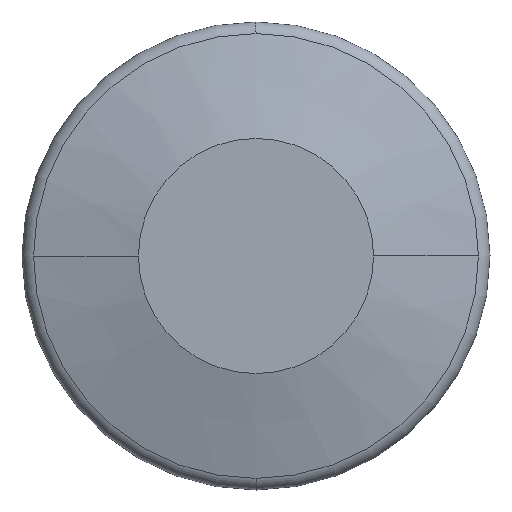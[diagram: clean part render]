
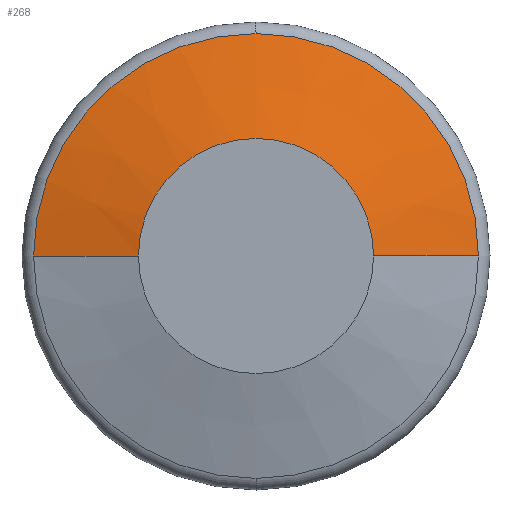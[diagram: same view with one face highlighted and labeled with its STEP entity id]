
A CAD part, left-side view. The second image highlights one B-rep face of the part: STEP entity #268.
In plain terms, the highlighted conical face has half-angle 75 degrees and reference radius 11.268 mm.
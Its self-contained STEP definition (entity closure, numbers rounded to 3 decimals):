
#218=CARTESIAN_POINT('',(1.,0.,0.0));
#219=DIRECTION('',(1.0,0.,0.0));
#220=DIRECTION('',(0.0,1.0,0.0));
#221=AXIS2_PLACEMENT_3D('',#218,#219,#220);
#222=CONICAL_SURFACE('',#221,11.268,75.);
#223=CARTESIAN_POINT('',(0.,7.536,0.0));
#224=VERTEX_POINT('',#223);
#225=CARTESIAN_POINT('',(1.801,14.259,0.));
#226=VERTEX_POINT('',#225);
#227=CARTESIAN_POINT('',(0.,7.536,0.0));
#228=DIRECTION('',(0.259,0.966,0.));
#229=VECTOR('',#228,6.96);
#230=LINE('',#227,#229);
#231=EDGE_CURVE('',#224,#226,#230,.T.);
#232=ORIENTED_EDGE('',*,*,#231,.F.);
#233=CARTESIAN_POINT('',(0.,-7.536,0.));
#234=VERTEX_POINT('',#233);
#235=CARTESIAN_POINT('',(0.,0.,0.0));
#236=DIRECTION('',(1.0,0.0,0.0));
#237=DIRECTION('',(0.0,1.0,0.0));
#238=AXIS2_PLACEMENT_3D('',#235,#236,#237);
#239=CIRCLE('',#238,7.536);
#240=EDGE_CURVE('',#224,#234,#239,.T.);
#241=ORIENTED_EDGE('',*,*,#240,.T.);
#242=CARTESIAN_POINT('',(1.801,-14.259,0.));
#243=VERTEX_POINT('',#242);
#244=CARTESIAN_POINT('',(1.801,-14.259,0.));
#245=DIRECTION('',(-0.259,0.966,0.));
#246=VECTOR('',#245,6.96);
#247=LINE('',#244,#246);
#248=EDGE_CURVE('',#243,#234,#247,.T.);
#249=ORIENTED_EDGE('',*,*,#248,.F.);
#250=CARTESIAN_POINT('',(1.801,0.,14.259));
#251=VERTEX_POINT('',#250);
#252=CARTESIAN_POINT('',(1.801,0.,0.));
#253=DIRECTION('',(1.0,0.0,0.0));
#254=DIRECTION('',(0.0,-1.0,0.0));
#255=AXIS2_PLACEMENT_3D('',#252,#253,#254);
#256=CIRCLE('',#255,14.259);
#257=EDGE_CURVE('',#251,#243,#256,.T.);
#258=ORIENTED_EDGE('',*,*,#257,.F.);
#259=CARTESIAN_POINT('',(1.801,0.,0.));
#260=DIRECTION('',(1.0,0.0,0.0));
#261=DIRECTION('',(0.0,-1.0,0.0));
#262=AXIS2_PLACEMENT_3D('',#259,#260,#261);
#263=CIRCLE('',#262,14.259);
#264=EDGE_CURVE('',#226,#251,#263,.T.);
#265=ORIENTED_EDGE('',*,*,#264,.F.);
#266=EDGE_LOOP('',(#232,#241,#249,#258,#265));
#267=FACE_OUTER_BOUND('',#266,.T.);
#268=ADVANCED_FACE('',(#267),#222,.T.);
